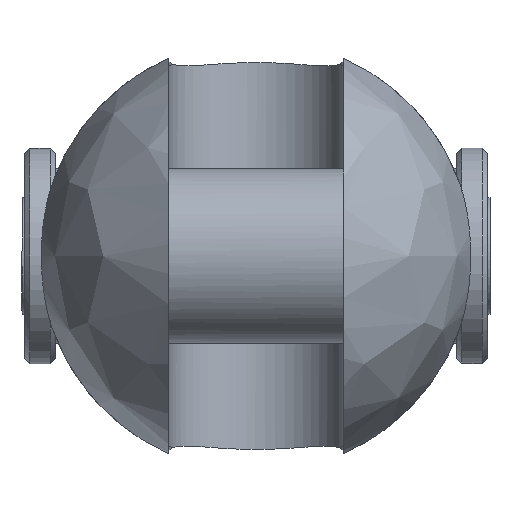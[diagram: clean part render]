
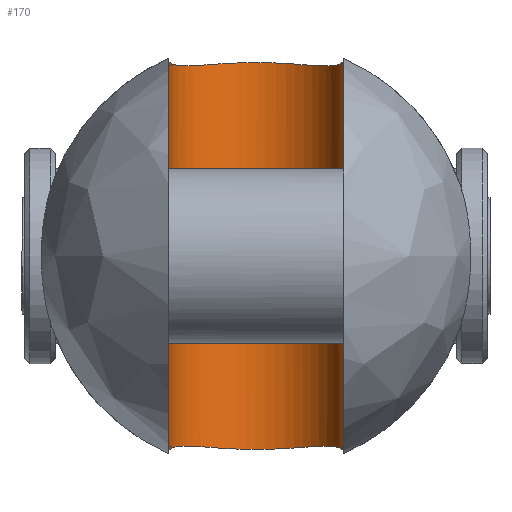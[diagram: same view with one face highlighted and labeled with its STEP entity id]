
A CAD part, left-side view. The second image highlights one B-rep face of the part: STEP entity #170.
In plain terms, the highlighted cylindrical face has radius 8.5 mm (diameter 17 mm), a partial arc.
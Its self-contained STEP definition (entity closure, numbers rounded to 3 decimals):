
#170=ADVANCED_FACE('',(#310),#2359,.F.);
#310=FACE_OUTER_BOUND('',#468,.T.);
#468=EDGE_LOOP('',(#1115,#1116,#1117,#1118,#1119,#1120,#1121,#1122));
#1115=ORIENTED_EDGE('',*,*,#1562,.F.);
#1116=ORIENTED_EDGE('',*,*,#1563,.F.);
#1117=ORIENTED_EDGE('',*,*,#1579,.F.);
#1118=ORIENTED_EDGE('',*,*,#1564,.F.);
#1119=ORIENTED_EDGE('',*,*,#1565,.F.);
#1120=ORIENTED_EDGE('',*,*,#1566,.F.);
#1121=ORIENTED_EDGE('',*,*,#1582,.F.);
#1122=ORIENTED_EDGE('',*,*,#1561,.F.);
#1561=EDGE_CURVE('',#2226,#2227,#1752,.T.);
#1562=EDGE_CURVE('',#2228,#2226,#1753,.T.);
#1563=EDGE_CURVE('',#2229,#2228,#1754,.T.);
#1564=EDGE_CURVE('',#2231,#2230,#1755,.T.);
#1565=EDGE_CURVE('',#2232,#2231,#1756,.T.);
#1566=EDGE_CURVE('',#2233,#2232,#1757,.T.);
#1579=EDGE_CURVE('',#2230,#2229,#1762,.T.);
#1582=EDGE_CURVE('',#2227,#2233,#1763,.T.);
#1752=B_SPLINE_CURVE_WITH_KNOTS('',3,(#5854,#5855,#5856,#5857),
 .UNSPECIFIED.,.F.,.F.,(4,4),(-2.683,0.),.UNSPECIFIED.);
#1753=B_SPLINE_CURVE_WITH_KNOTS('',1,(#5858,#5859),.UNSPECIFIED.,.F.,.F.,
(2,2),(-38.027,0.),.UNSPECIFIED.);
#1754=B_SPLINE_CURVE_WITH_KNOTS('',3,(#5860,#5861,#5862,#5863),
 .UNSPECIFIED.,.F.,.F.,(4,4),(-2.683,0.),.UNSPECIFIED.);
#1755=B_SPLINE_CURVE_WITH_KNOTS('',3,(#5864,#5865,#5866,#5867),
 .UNSPECIFIED.,.F.,.F.,(4,4),(-2.683,0.),.UNSPECIFIED.);
#1756=B_SPLINE_CURVE_WITH_KNOTS('',1,(#5868,#5869),.UNSPECIFIED.,.F.,.F.,
(2,2),(-38.027,0.),.UNSPECIFIED.);
#1757=B_SPLINE_CURVE_WITH_KNOTS('',3,(#5870,#5871,#5872,#5873),
 .UNSPECIFIED.,.F.,.F.,(4,4),(-2.683,0.),.UNSPECIFIED.);
#1762=B_SPLINE_CURVE_WITH_KNOTS('',3,(#5910,#5911,#5912,#5913,#5914,#5915,
#5916,#5917,#5918,#5919,#5920,#5921,#5922,#5923,#5924,#5925,#5926,#5927),
 .UNSPECIFIED.,.F.,.F.,(4,2,2,2,2,2,2,2,4),(0.,1.322,4.46,
7.619,10.778,13.936,17.095,20.233,
21.555),.UNSPECIFIED.);
#1763=B_SPLINE_CURVE_WITH_KNOTS('',3,(#5934,#5935,#5936,#5937,#5938,#5939,
#5940,#5941,#5942,#5943,#5944,#5945,#5946,#5947,#5948,#5949,#5950,#5951),
 .UNSPECIFIED.,.F.,.F.,(4,2,2,2,2,2,2,2,4),(0.,1.322,4.46,
7.619,10.778,13.936,17.095,20.233,
21.555),.UNSPECIFIED.);
#2226=VERTEX_POINT('',#5740);
#2227=VERTEX_POINT('',#5741);
#2228=VERTEX_POINT('',#5742);
#2229=VERTEX_POINT('',#5743);
#2230=VERTEX_POINT('',#5744);
#2231=VERTEX_POINT('',#5745);
#2232=VERTEX_POINT('',#5746);
#2233=VERTEX_POINT('',#5747);
#2359=CYLINDRICAL_SURFACE('',#2581,8.5);
#2581=AXIS2_PLACEMENT_3D('',#5351,#2684,$);
#2684=DIRECTION('',(0.,0.,1.));
#5351=CARTESIAN_POINT('',(29.,0.,0.));
#5740=CARTESIAN_POINT('',(29.,8.5,19.013));
#5741=CARTESIAN_POINT('',(31.604,8.091,18.641));
#5742=CARTESIAN_POINT('',(29.,8.5,-19.013));
#5743=CARTESIAN_POINT('',(31.604,8.091,-18.641));
#5744=CARTESIAN_POINT('',(31.604,-8.091,-18.641));
#5745=CARTESIAN_POINT('',(29.,-8.5,-19.013));
#5746=CARTESIAN_POINT('',(29.,-8.5,19.013));
#5747=CARTESIAN_POINT('',(31.604,-8.091,18.641));
#5854=CARTESIAN_POINT('',(29.,8.5,19.013));
#5855=CARTESIAN_POINT('',(29.85,8.5,18.893));
#5856=CARTESIAN_POINT('',(30.746,8.368,18.765));
#5857=CARTESIAN_POINT('',(31.604,8.091,18.641));
#5858=CARTESIAN_POINT('',(29.,8.5,-19.013));
#5859=CARTESIAN_POINT('',(29.,8.5,19.013));
#5860=CARTESIAN_POINT('',(31.604,8.091,-18.641));
#5861=CARTESIAN_POINT('',(30.746,8.368,-18.765));
#5862=CARTESIAN_POINT('',(29.85,8.5,-18.893));
#5863=CARTESIAN_POINT('',(29.,8.5,-19.013));
#5864=CARTESIAN_POINT('',(29.,-8.5,-19.013));
#5865=CARTESIAN_POINT('',(29.85,-8.5,-18.893));
#5866=CARTESIAN_POINT('',(30.746,-8.368,-18.765));
#5867=CARTESIAN_POINT('',(31.604,-8.091,-18.641));
#5868=CARTESIAN_POINT('',(29.,-8.5,19.013));
#5869=CARTESIAN_POINT('',(29.,-8.5,-19.013));
#5870=CARTESIAN_POINT('',(31.604,-8.091,18.641));
#5871=CARTESIAN_POINT('',(30.746,-8.368,18.765));
#5872=CARTESIAN_POINT('',(29.85,-8.5,18.893));
#5873=CARTESIAN_POINT('',(29.,-8.5,19.013));
#5910=CARTESIAN_POINT('',(31.604,-8.091,-18.641));
#5911=CARTESIAN_POINT('',(32.02,-7.958,-18.581));
#5912=CARTESIAN_POINT('',(32.431,-7.789,-18.537));
#5913=CARTESIAN_POINT('',(33.769,-7.114,-18.437));
#5914=CARTESIAN_POINT('',(34.623,-6.451,-18.453));
#5915=CARTESIAN_POINT('',(35.964,-4.976,-18.543));
#5916=CARTESIAN_POINT('',(36.544,-4.059,-18.623));
#5917=CARTESIAN_POINT('',(37.312,-2.071,-18.746));
#5918=CARTESIAN_POINT('',(37.5,-1.001,-18.786));
#5919=CARTESIAN_POINT('',(37.5,1.001,-18.786));
#5920=CARTESIAN_POINT('',(37.312,2.071,-18.746));
#5921=CARTESIAN_POINT('',(36.544,4.059,-18.623));
#5922=CARTESIAN_POINT('',(35.964,4.976,-18.543));
#5923=CARTESIAN_POINT('',(34.623,6.451,-18.453));
#5924=CARTESIAN_POINT('',(33.769,7.114,-18.437));
#5925=CARTESIAN_POINT('',(32.431,7.789,-18.537));
#5926=CARTESIAN_POINT('',(32.02,7.958,-18.581));
#5927=CARTESIAN_POINT('',(31.604,8.091,-18.641));
#5934=CARTESIAN_POINT('',(31.604,8.091,18.641));
#5935=CARTESIAN_POINT('',(32.02,7.958,18.581));
#5936=CARTESIAN_POINT('',(32.431,7.789,18.537));
#5937=CARTESIAN_POINT('',(33.769,7.114,18.437));
#5938=CARTESIAN_POINT('',(34.623,6.451,18.453));
#5939=CARTESIAN_POINT('',(35.964,4.976,18.543));
#5940=CARTESIAN_POINT('',(36.544,4.059,18.623));
#5941=CARTESIAN_POINT('',(37.312,2.071,18.746));
#5942=CARTESIAN_POINT('',(37.5,1.001,18.786));
#5943=CARTESIAN_POINT('',(37.5,-1.001,18.786));
#5944=CARTESIAN_POINT('',(37.312,-2.071,18.746));
#5945=CARTESIAN_POINT('',(36.544,-4.059,18.623));
#5946=CARTESIAN_POINT('',(35.964,-4.976,18.543));
#5947=CARTESIAN_POINT('',(34.623,-6.451,18.453));
#5948=CARTESIAN_POINT('',(33.769,-7.114,18.437));
#5949=CARTESIAN_POINT('',(32.431,-7.789,18.537));
#5950=CARTESIAN_POINT('',(32.02,-7.958,18.581));
#5951=CARTESIAN_POINT('',(31.604,-8.091,18.641));
